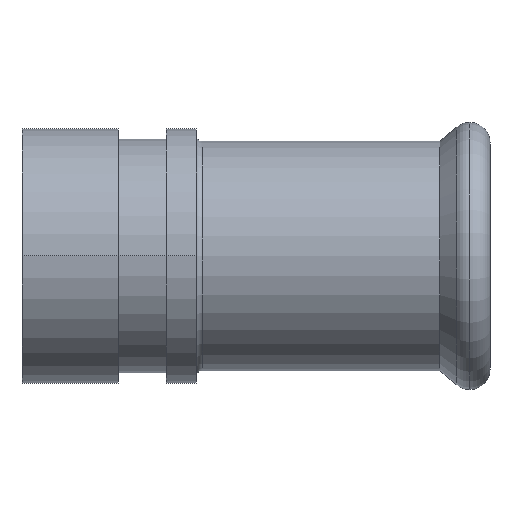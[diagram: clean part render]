
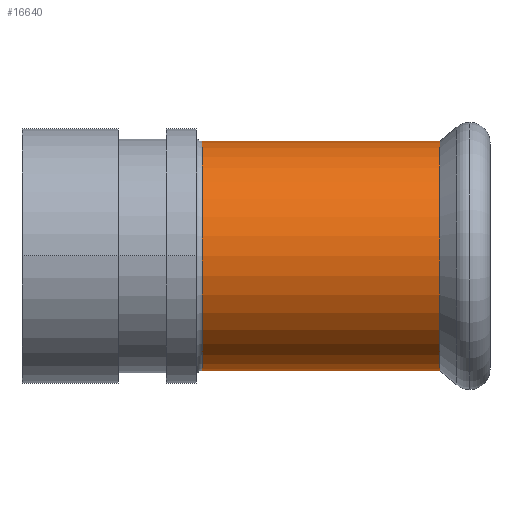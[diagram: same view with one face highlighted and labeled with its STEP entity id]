
A CAD part, top view. The second image highlights one B-rep face of the part: STEP entity #16640.
In plain terms, the highlighted cylindrical face has radius 19.1 mm (diameter 38.2 mm), a partial arc.
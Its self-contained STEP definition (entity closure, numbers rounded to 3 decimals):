
#1490=CARTESIAN_POINT('',(484.871,-323.506,
0.));
#1500=VERTEX_POINT('',#1490);
#1530=CARTESIAN_POINT('',(484.871,-342.606,
0.));
#1540=DIRECTION('',(1.,0.,0.));
#1550=DIRECTION('',(0.,-1.,0.));
#1560=AXIS2_PLACEMENT_3D('',#1530,#1540,#1550);
#1570=CIRCLE('',#1560,19.1);
#1580=CARTESIAN_POINT('',(484.871,-361.706,
0.));
#1590=VERTEX_POINT('',#1580);
#1600=EDGE_CURVE('',#1500,#1590,#1570,.T.);
#16100=CARTESIAN_POINT('',(524.478,-323.506,
0.));
#16110=VERTEX_POINT('',#16100);
#16290=CARTESIAN_POINT('',(524.478,-361.706,
0.));
#16300=VERTEX_POINT('',#16290);
#16330=CARTESIAN_POINT('',(524.478,-342.606,
0.));
#16340=DIRECTION('',(1.,0.,0.));
#16350=DIRECTION('',(0.,-1.,0.));
#16360=AXIS2_PLACEMENT_3D('',#16330,#16340,#16350);
#16370=CIRCLE('',#16360,19.1);
#16380=EDGE_CURVE('',#16110,#16300,#16370,.T.);
#16430=CARTESIAN_POINT('',(515.131,-342.606,
0.));
#16440=DIRECTION('',(-1.,0.,0.));
#16450=DIRECTION('',(0.,1.,0.));
#16460=AXIS2_PLACEMENT_3D('',#16430,#16440,#16450);
#16470=CYLINDRICAL_SURFACE('',#16460,19.1);
#16480=CARTESIAN_POINT('',(515.131,-323.506,
0.));
#16490=DIRECTION('',(-1.,0.,0.));
#16500=VECTOR('',#16490,1.);
#16510=LINE('',#16480,#16500);
#16520=EDGE_CURVE('',#16110,#1500,#16510,.T.);
#16530=ORIENTED_EDGE('',*,*,#16520,.T.);
#16540=ORIENTED_EDGE('',*,*,#16380,.F.);
#16550=CARTESIAN_POINT('',(515.131,-361.706,
0.));
#16560=DIRECTION('',(-1.,0.,0.));
#16570=VECTOR('',#16560,1.);
#16580=LINE('',#16550,#16570);
#16590=EDGE_CURVE('',#16300,#1590,#16580,.T.);
#16600=ORIENTED_EDGE('',*,*,#16590,.F.);
#16610=ORIENTED_EDGE('',*,*,#1600,.T.);
#16620=EDGE_LOOP('',(#16610,#16600,#16540,#16530));
#16630=FACE_OUTER_BOUND('',#16620,.T.);
#16640=ADVANCED_FACE('',(#16630),#16470,.T.);
